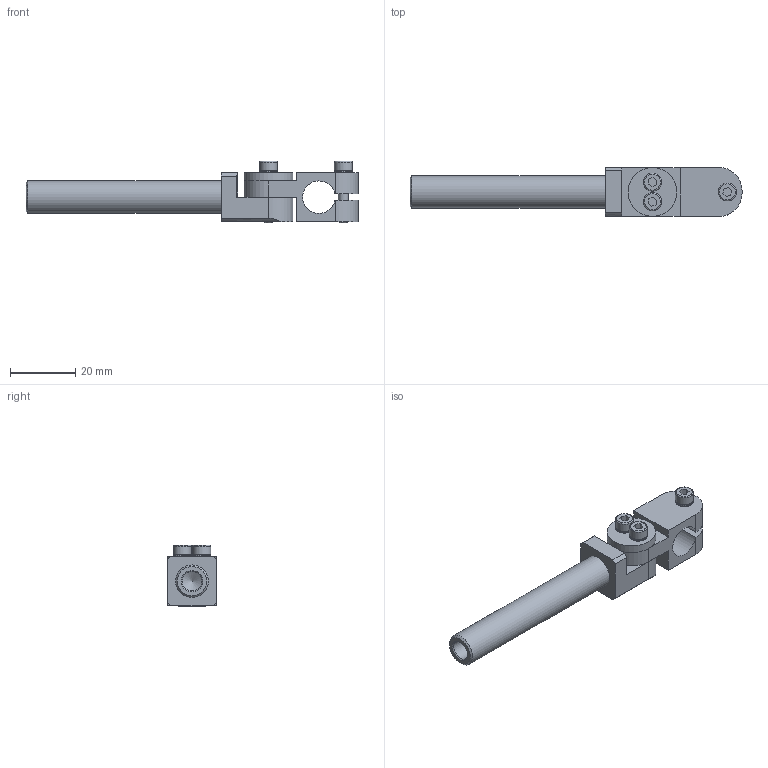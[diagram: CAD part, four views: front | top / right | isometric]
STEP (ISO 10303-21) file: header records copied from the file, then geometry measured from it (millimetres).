
FILE_DESCRIPTION(('STEP AP214'),'1');
FILE_NAME('CA.GVR.1010.60.stp','2020-09-21T09:31:42',(' '),(' '),'Spatial InterOp 3D',' ',' ');
FILE_SCHEMA(('AUTOMOTIVE_DESIGN { 1 0 10303 214 1 1 1 1 }'));
Length unit declared in the file: millimetre
Products named in the file (6): CA.GVR.1010.60; V.TCE3x16; R.3.SCH; GVR.10.2; GVR.10.3; GVR.10.1.60
Assembly tree (9 placements, depth 2):
  CA.GVR.1010.60
    V.TCE3x16  x3
    R.3.SCH  x3
    GVR.10.2
    GVR.10.3
    GVR.10.1.60
Bounding box: 102 x 15 x 19 mm (x, y, z)
Volume: 10377.2 mm3; surface area: 8481.1 mm2
Topology: 9 solids, 9 shells, 689 faces, 2079 edges, 1410 vertices
Faces by surface type: plane 634, cylinder 39, cone 10, torus 6
Full cylindrical faces by diameter (mm): 2.5 x2, 2.7 x1, 3 x3, 3.2 x3, 3.5 x3, 5.5 x6, 6 x1, 9.9 x1, 10 x1, 10.1 x1, 15 x1
Entity records: 11522 total; most frequent: CARTESIAN_POINT 1590, DIRECTION 1587, ORIENTED_EDGE 1532, EDGE_CURVE 766, AXIS2_PLACEMENT_3D 542, VERTEX_POINT 533, LINE 503, VECTOR 503
